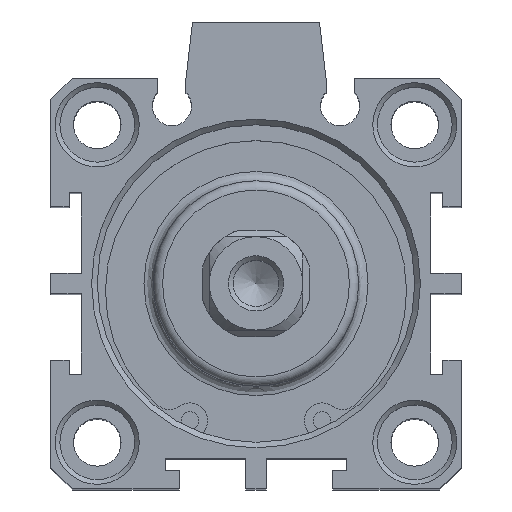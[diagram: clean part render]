
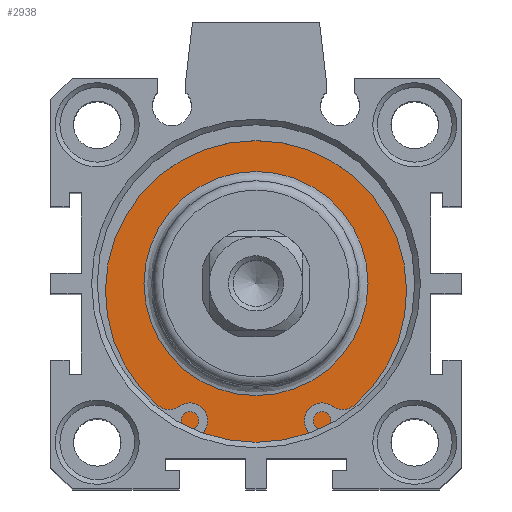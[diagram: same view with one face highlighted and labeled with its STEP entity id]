
A CAD part, top view. The second image highlights one B-rep face of the part: STEP entity #2938.
In plain terms, the highlighted planar face has unit normal (0, 0, 1).
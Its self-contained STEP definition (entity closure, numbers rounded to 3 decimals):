
#2887=CARTESIAN_POINT('',(-3.726,11.88,60.3));
#2888=VERTEX_POINT('',#2887);
#2889=CARTESIAN_POINT('',(-3.726,-0.12,60.3));
#2890=DIRECTION('',(0.0,0.0,1.0));
#2891=DIRECTION('',(0.0,-1.0,0.0));
#2892=AXIS2_PLACEMENT_3D('',#2889,#2890,#2891);
#2893=CIRCLE('',#2892,12.);
#2894=EDGE_CURVE('',#2888,#2888,#2893,.T.);
#2919=CARTESIAN_POINT('',(-3.726,13.88,60.3));
#2920=DIRECTION('',(0.0,0.0,1.0));
#2921=DIRECTION('',(1.0,0.0,0.0));
#2922=AXIS2_PLACEMENT_3D('',#2919,#2920,#2921);
#2923=PLANE('',#2922);
#2924=CARTESIAN_POINT('',(-3.726,16.88,60.3));
#2925=VERTEX_POINT('',#2924);
#2926=CARTESIAN_POINT('',(-3.726,-0.12,60.3));
#2927=DIRECTION('',(0.0,0.0,-1.0));
#2928=DIRECTION('',(0.0,1.0,0.0));
#2929=AXIS2_PLACEMENT_3D('',#2926,#2927,#2928);
#2930=CIRCLE('',#2929,17.);
#2931=EDGE_CURVE('',#2925,#2925,#2930,.T.);
#2932=ORIENTED_EDGE('',*,*,#2931,.F.);
#2933=EDGE_LOOP('',(#2932));
#2934=FACE_OUTER_BOUND('',#2933,.T.);
#2935=ORIENTED_EDGE('',*,*,#2894,.F.);
#2936=EDGE_LOOP('',(#2935));
#2937=FACE_BOUND('',#2936,.T.);
#2938=ADVANCED_FACE('',(#2934,#2937),#2923,.T.);
